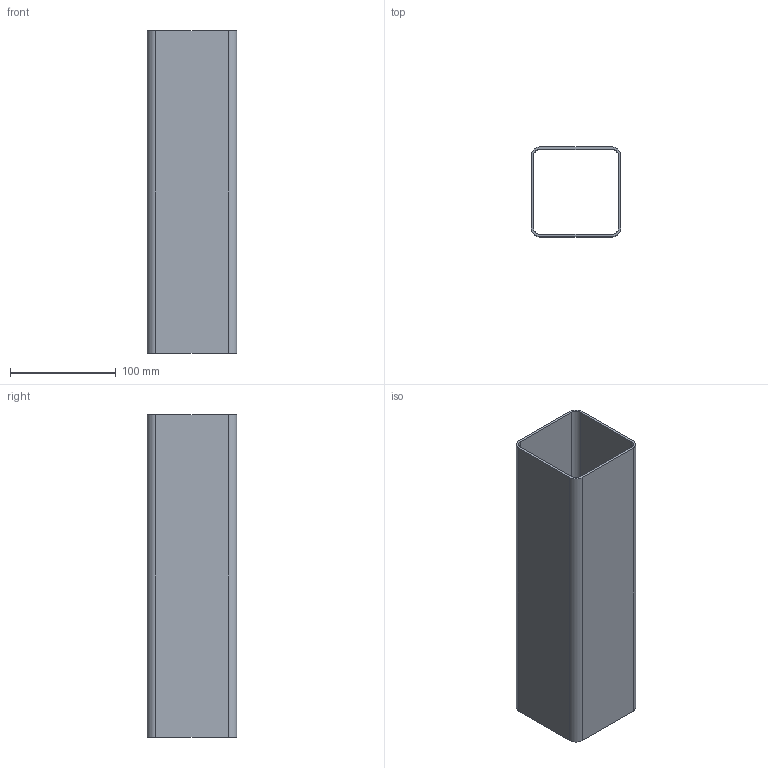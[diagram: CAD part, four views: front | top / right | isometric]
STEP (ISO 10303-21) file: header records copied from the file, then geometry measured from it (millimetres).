
FILE_DESCRIPTION (( 'STEP AP214' ), '1' );
FILE_NAME ('DRP-002-0001-06.STEP', '2011-12-05T20:36:42', ( 'Allred & Associates' ), ( 'Allred & Associates' ), 'SwSTEP 2.0', 'SolidWorks 2011', '' );
FILE_SCHEMA (( 'AUTOMOTIVE_DESIGN' ));
Length unit declared in the file: inch
Products named in the file (1): DRP-002-0001-06
Bounding box: 84.66 x 84.66 x 304.8 mm (x, y, z)
Volume: 209224.2 mm3; surface area: 195188.7 mm2
Topology: 1 solids, 1 shells, 18 faces, 48 edges, 32 vertices
Faces by surface type: plane 10, cylinder 8
Entity records: 612 total; most frequent: DIRECTION 102, CARTESIAN_POINT 99, ORIENTED_EDGE 96, EDGE_CURVE 48, AXIS2_PLACEMENT_3D 35, VECTOR 32, VERTEX_POINT 32, LINE 32
